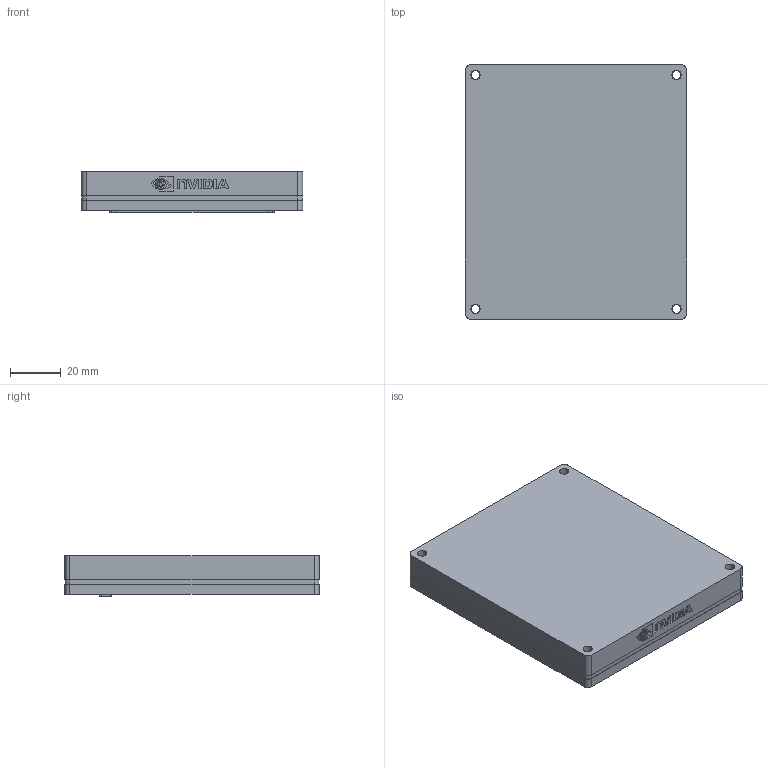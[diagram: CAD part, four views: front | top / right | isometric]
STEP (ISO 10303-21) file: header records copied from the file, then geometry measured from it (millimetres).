
FILE_DESCRIPTION((''),'2;1');
FILE_NAME('245-12888-0000-000_ASM','2019-01-24T',('amustafa'),(''),'CREO PARAMETRIC BY PTC INC, 2018070','CREO PARAMETRIC BY PTC INC, 2018070','');
FILE_SCHEMA(('CONFIG_CONTROL_DESIGN','GEOMETRIC_VALIDATION_PROPERTIES_MIM'));
Products named in the file (12): 080-1502-000_4; 142-82888-1000-A03_ASM; 142-82888-1000-A04; 142-82888-1000-A04_ASM; 244-12888-0000-A00_ASM; 367-0034-000; 350-82888-0001-000_ASM; 367-0035-000; 580-12888-0000-000_ASM; 155-0532-000; 155-0533-000; 245-12888-0000-000_ASM
Assembly tree (18 placements, depth 4):
  245-12888-0000-000_ASM
    244-12888-0000-A00_ASM
      142-82888-1000-A03_ASM
        080-1502-000_4
      142-82888-1000-A04_ASM
        142-82888-1000-A04
        080-1502-000_4
    580-12888-0000-000_ASM
      350-82888-0001-000_ASM
        367-0034-000
      367-0035-000
    155-0532-000  x4
    155-0533-000  x4
Bounding box: 87 x 100 x 16.04 mm (x, y, z)
Volume: 67059 mm3; surface area: 72734.7 mm2
Topology: 13 solids, 13 shells, 1415 faces, 3945 edges, 2517 vertices
Faces by surface type: cylinder 546, plane 543, sphere 105, bspline 92, cone 88, extrusion 29, torus 12
Entity records: 41045 total; most frequent: CARTESIAN_POINT 12866, ORIENTED_EDGE 4292, DIRECTION 4244, PRESENTATION_STYLE_ASSIGNMENT 2213, STYLED_ITEM 2152, CURVE_STYLE 2146, EDGE_CURVE 2146, AXIS2_PLACEMENT_3D 1519
